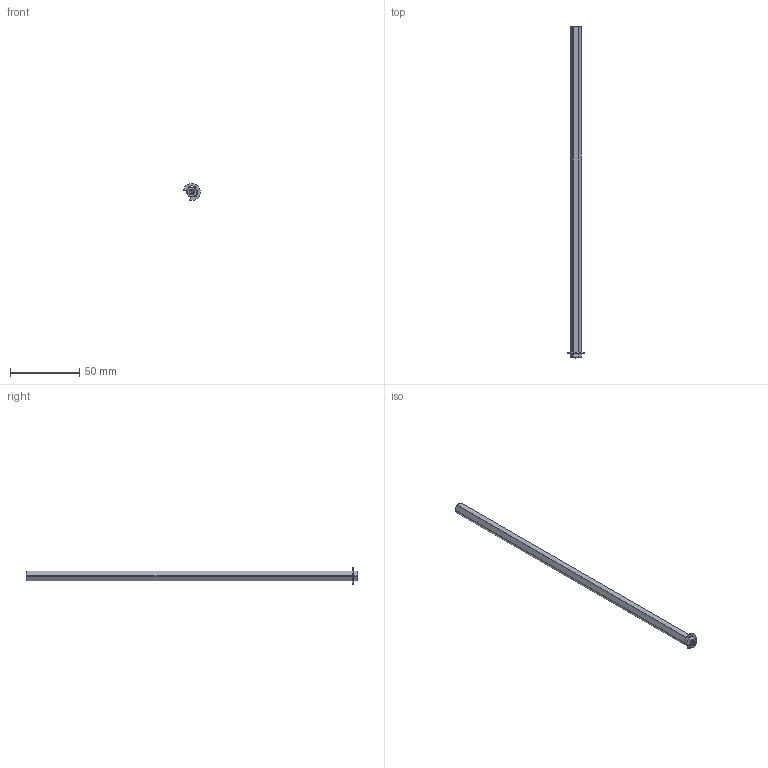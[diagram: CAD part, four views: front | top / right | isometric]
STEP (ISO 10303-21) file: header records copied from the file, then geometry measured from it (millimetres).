
FILE_DESCRIPTION (( 'STEP AP203' ), '1' );
FILE_NAME ('2106-4008-2400 assembly.STEP', '2024-03-07T19:49:26', ( '' ), ( '' ), 'SwSTEP 2.0', 'SolidWorks 2016', '' );
FILE_SCHEMA (( 'CONFIG_CONTROL_DESIGN' ));
Length unit declared in the file: millimetre
Products named in the file (3): 2106 Series 8mm REX e-clip; 2106-4008-2400 assembly; 2106-4008-2400
Assembly tree (2 placements, depth 2):
  2106-4008-2400 assembly
    2106-4008-2400
    2106 Series 8mm REX e-clip
Bounding box: 12.07 x 240 x 12.28 mm (x, y, z)
Volume: 9922.7 mm3; surface area: 6512.8 mm2
Topology: 2 solids, 2 shells, 220 faces, 624 edges, 408 vertices
Faces by surface type: cylinder 168, plane 26, cone 22, bspline 4
Entity records: 13217 total; most frequent: CARTESIAN_POINT 8047, ORIENTED_EDGE 1240, DIRECTION 846, EDGE_CURVE 620, VERTEX_POINT 408, AXIS2_PLACEMENT_3D 315, EDGE_LOOP 224, ADVANCED_FACE 220
